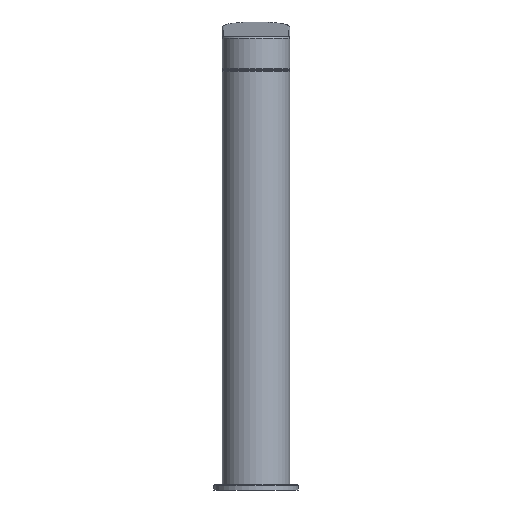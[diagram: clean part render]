
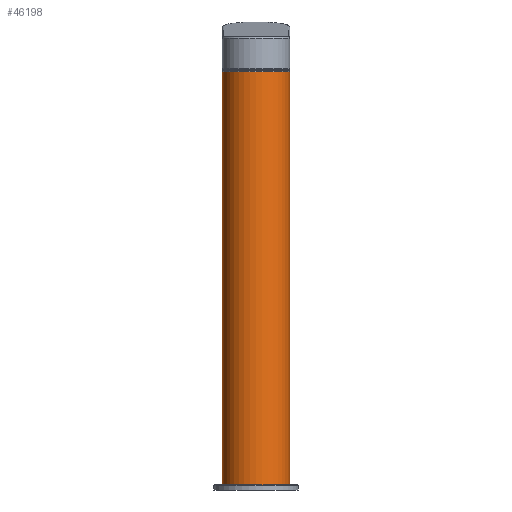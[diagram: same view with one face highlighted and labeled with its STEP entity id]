
A CAD part, front view. The second image highlights one B-rep face of the part: STEP entity #46198.
In plain terms, the highlighted cylindrical face has radius 20 mm (diameter 40 mm), a partial arc.
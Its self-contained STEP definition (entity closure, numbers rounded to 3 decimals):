
#106 = DIRECTION ( 'NONE',  ( 0., 0., -1. ) ) ;
#318 = DIRECTION ( 'NONE',  ( 0., 0., -1. ) ) ;
#2437 = DIRECTION ( 'NONE',  ( 0., 0., 1. ) ) ;
#2614 = LINE ( 'NONE', #79506, #6826 ) ;
#6826 = VECTOR ( 'NONE', #106, 1000. ) ;
#7384 = CARTESIAN_POINT ( 'NONE',  ( 0., 0., 140. ) ) ;
#9971 = DIRECTION ( 'NONE',  ( 0., 0., -1. ) ) ;
#11483 = CARTESIAN_POINT ( 'NONE',  ( -20., 0., 140. ) ) ;
#12389 = CARTESIAN_POINT ( 'NONE',  ( 0., 0., 139.5 ) ) ;
#21927 = VERTEX_POINT ( 'NONE', #29696 ) ;
#23979 = VECTOR ( 'NONE', #9971, 1000. ) ;
#26990 = DIRECTION ( 'NONE',  ( 0., 0., -1. ) ) ;
#29696 = CARTESIAN_POINT ( 'NONE',  ( 20., 0., -105. ) ) ;
#36157 = ORIENTED_EDGE ( 'NONE', *, *, #50096, .F. ) ;
#39252 = LINE ( 'NONE', #92038, #23979 ) ;
#42196 = CIRCLE ( 'NONE', #50578, 20. ) ;
#43869 = LINE ( 'NONE', #56036, #66797 ) ;
#44411 = CYLINDRICAL_SURFACE ( 'NONE', #59835, 20. ) ;
#46198 = ADVANCED_FACE ( 'NONE', ( #108464 ), #44411, .T. ) ;
#47545 = VERTEX_POINT ( 'NONE', #158655 ) ;
#50096 = EDGE_CURVE ( 'NONE', #98725, #21927, #2614, .T. ) ;
#50161 = ORIENTED_EDGE ( 'NONE', *, *, #60983, .T. ) ;
#50578 = AXIS2_PLACEMENT_3D ( 'NONE', #159616, #2437, #120770 ) ;
#56036 = CARTESIAN_POINT ( 'NONE',  ( 20., 0., 140. ) ) ;
#59835 = AXIS2_PLACEMENT_3D ( 'NONE', #7384, #165448, #141215 ) ;
#60983 = EDGE_CURVE ( 'NONE', #47545, #110932, #118618, .T. ) ;
#63461 = AXIS2_PLACEMENT_3D ( 'NONE', #12389, #26990, #157519 ) ;
#66797 = VECTOR ( 'NONE', #135650, 1000. ) ;
#69527 = ORIENTED_EDGE ( 'NONE', *, *, #141029, .T. ) ;
#70235 = ORIENTED_EDGE ( 'NONE', *, *, #132685, .T. ) ;
#72570 = VECTOR ( 'NONE', #318, 1000. ) ;
#79506 = CARTESIAN_POINT ( 'NONE',  ( 20., 0., 140. ) ) ;
#83590 = EDGE_CURVE ( 'NONE', #151414, #21927, #42196, .T. ) ;
#92038 = CARTESIAN_POINT ( 'NONE',  ( -20., 0., 140. ) ) ;
#93803 = VERTEX_POINT ( 'NONE', #168376 ) ;
#98725 = VERTEX_POINT ( 'NONE', #121076 ) ;
#102098 = CIRCLE ( 'NONE', #63461, 20. ) ;
#107407 = EDGE_LOOP ( 'NONE', ( #36157, #69527, #138503, #50161, #70235, #131604 ) ) ;
#108464 = FACE_OUTER_BOUND ( 'NONE', #107407, .T. ) ;
#110932 = VERTEX_POINT ( 'NONE', #114419 ) ;
#114419 = CARTESIAN_POINT ( 'NONE',  ( -20., 0., 135.717 ) ) ;
#118618 = LINE ( 'NONE', #11483, #72570 ) ;
#120770 = DIRECTION ( 'NONE',  ( -1., 0., 0. ) ) ;
#121076 = CARTESIAN_POINT ( 'NONE',  ( 20., 0., 135.717 ) ) ;
#131604 = ORIENTED_EDGE ( 'NONE', *, *, #83590, .T. ) ;
#132685 = EDGE_CURVE ( 'NONE', #110932, #151414, #39252, .T. ) ;
#135530 = EDGE_CURVE ( 'NONE', #93803, #47545, #102098, .T. ) ;
#135650 = DIRECTION ( 'NONE',  ( 0., 0., 1. ) ) ;
#138503 = ORIENTED_EDGE ( 'NONE', *, *, #135530, .T. ) ;
#141029 = EDGE_CURVE ( 'NONE', #98725, #93803, #43869, .T. ) ;
#141215 = DIRECTION ( 'NONE',  ( -1., 0., 0. ) ) ;
#151414 = VERTEX_POINT ( 'NONE', #158590 ) ;
#157519 = DIRECTION ( 'NONE',  ( -1., 0., 0. ) ) ;
#158590 = CARTESIAN_POINT ( 'NONE',  ( -20., 0., -105. ) ) ;
#158655 = CARTESIAN_POINT ( 'NONE',  ( -20., 0., 139.5 ) ) ;
#159616 = CARTESIAN_POINT ( 'NONE',  ( 0., 0., -105. ) ) ;
#165448 = DIRECTION ( 'NONE',  ( 0., 0., -1. ) ) ;
#168376 = CARTESIAN_POINT ( 'NONE',  ( 20., 0., 139.5 ) ) ;
